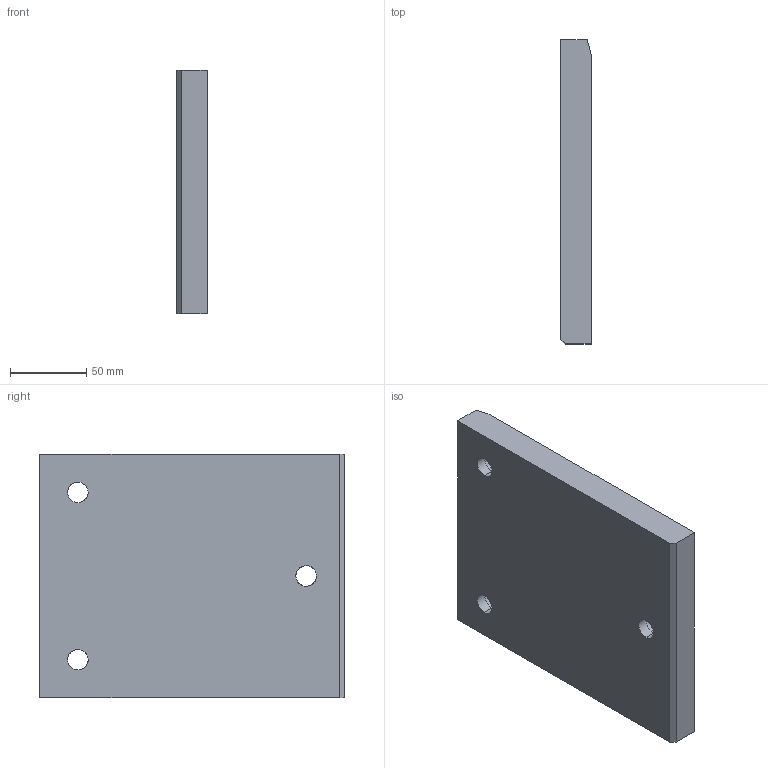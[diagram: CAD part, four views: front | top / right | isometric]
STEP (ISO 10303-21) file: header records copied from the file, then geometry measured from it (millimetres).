
FILE_DESCRIPTION(('CATIA V5 STEP Exchange'),'2;1');
FILE_NAME('C:\Users\borellobunino\Desktop\3D X SITO CF\A915\GSB_OILLESS_G22501160200\STEP-2.03\A915-160X200.stp','2019-07-14T14:19:34+00:00',('none'),('none'),'CATIA Version 5 Release 20 GA (IN-10)','CATIA V5 STEP AP203','none');
FILE_SCHEMA(('CONFIG_CONTROL_DESIGN'));
Length unit declared in the file: millimetre
Products named in the file (1): A915-160X200
Bounding box: 20 x 200 x 160 mm (x, y, z)
Volume: 621486.8 mm3; surface area: 79961.1 mm2
Topology: 1 solids, 1 shells, 30 faces, 99 edges, 74 vertices
Faces by surface type: cylinder 13, plane 11, torus 6
Entity records: 1437 total; most frequent: CARTESIAN_POINT 540, ORIENTED_EDGE 198, DIRECTION 135, EDGE_CURVE 99, AXIS2_PLACEMENT_3D 75, VERTEX_POINT 74, CIRCLE 44, EDGE_LOOP 39
